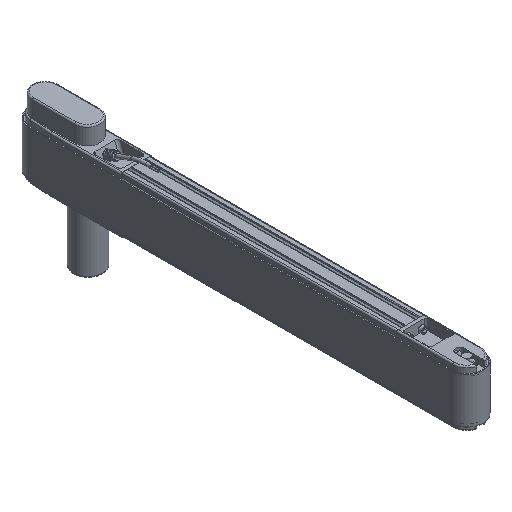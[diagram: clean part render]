
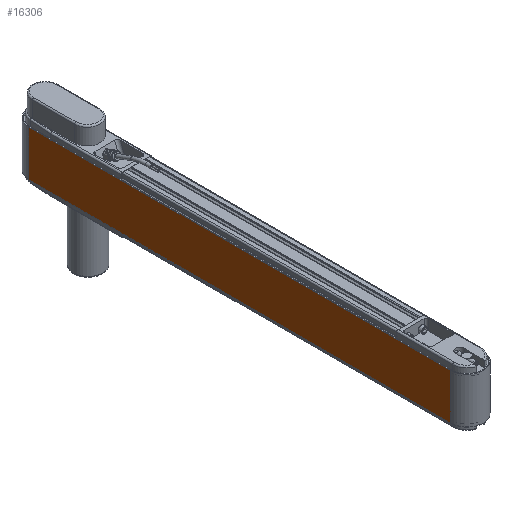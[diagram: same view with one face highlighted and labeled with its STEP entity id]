
A CAD part, isometric view. The second image highlights one B-rep face of the part: STEP entity #16306.
In plain terms, the highlighted planar face has unit normal (-1, 0, 0).
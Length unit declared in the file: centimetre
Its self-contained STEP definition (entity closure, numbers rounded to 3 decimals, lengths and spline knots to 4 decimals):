
#515=PLANE('',#17378);
#1178=FACE_OUTER_BOUND('',#2077,.T.);
#2077=EDGE_LOOP('',(#11018,#11019,#11020,#11021));
#3089=LINE('',#24253,#4354);
#3092=LINE('',#24262,#4357);
#3095=LINE('',#24270,#4360);
#3096=LINE('',#24272,#4361);
#4354=VECTOR('',#19513,1.);
#4357=VECTOR('',#19522,1.);
#4360=VECTOR('',#19531,1.);
#4361=VECTOR('',#19534,1.);
#6529=VERTEX_POINT('',#24249);
#6531=VERTEX_POINT('',#24252);
#6533=VERTEX_POINT('',#24258);
#6536=VERTEX_POINT('',#24268);
#8265=EDGE_CURVE('',#6531,#6529,#3089,.T.);
#8270=EDGE_CURVE('',#6533,#6531,#3092,.T.);
#8274=EDGE_CURVE('',#6529,#6536,#3095,.T.);
#8275=EDGE_CURVE('',#6536,#6533,#3096,.T.);
#11018=ORIENTED_EDGE('',*,*,#8275,.T.);
#11019=ORIENTED_EDGE('',*,*,#8270,.T.);
#11020=ORIENTED_EDGE('',*,*,#8265,.T.);
#11021=ORIENTED_EDGE('',*,*,#8274,.T.);
#16306=ADVANCED_FACE('',(#1178),#515,.T.);
#17378=AXIS2_PLACEMENT_3D('',#24271,#19532,#19533);
#19513=DIRECTION('',(0.,-1.,0.));
#19522=DIRECTION('',(0.,0.,-1.));
#19531=DIRECTION('',(0.,0.,1.));
#19532=DIRECTION('center_axis',(-1.,0.,0.));
#19533=DIRECTION('ref_axis',(0.,0.,
1.));
#19534=DIRECTION('',(0.,1.,0.));
#24249=CARTESIAN_POINT('',(-2.33,-47.,-3.25));
#24252=CARTESIAN_POINT('',(-2.33,13.,-3.25));
#24253=CARTESIAN_POINT('',(-2.33,-47.,-3.25));
#24258=CARTESIAN_POINT('',(-2.33,13.,3.25));
#24262=CARTESIAN_POINT('',(-2.33,13.,0.));
#24268=CARTESIAN_POINT('',(-2.33,-47.,3.25));
#24270=CARTESIAN_POINT('',(-2.33,-47.,0.));
#24271=CARTESIAN_POINT('Origin',(-2.33,-47.,0.));
#24272=CARTESIAN_POINT('',(-2.33,-47.,3.25));
